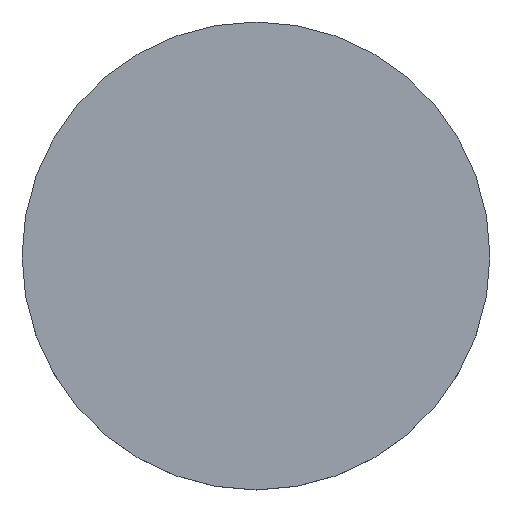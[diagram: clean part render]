
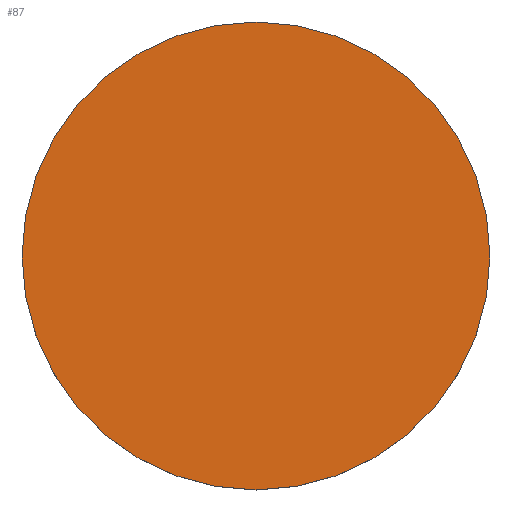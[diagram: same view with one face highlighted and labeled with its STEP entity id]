
A CAD part, top view. The second image highlights one B-rep face of the part: STEP entity #87.
In plain terms, the highlighted planar face has unit normal (0, 0, 1).
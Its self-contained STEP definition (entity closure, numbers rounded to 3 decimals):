
#43=PLANE('',#83);
#47=ORIENTED_EDGE('',*,*,#53,.F.);
#49=CIRCLE('',#81,17.5);
#51=VERTEX_POINT('',#75);
#53=EDGE_CURVE('',#51,#51,#49,.T.);
#57=EDGE_LOOP('',(#47));
#61=FACE_BOUND('',#57,.T.);
#66=DIRECTION('',(0.,0.,-1.));
#67=DIRECTION('',(0.,-17.5,0.));
#70=DIRECTION('',(0.,0.,1.));
#71=DIRECTION('',(0.,-1.,0.));
#75=CARTESIAN_POINT('',(0.,-17.5,3.));
#76=CARTESIAN_POINT('',(0.,0.,3.));
#78=CARTESIAN_POINT('',(0.,0.,3.));
#81=AXIS2_PLACEMENT_3D('',#76,#66,#67);
#83=AXIS2_PLACEMENT_3D('',#78,#70,#71);
#87=ADVANCED_FACE('',(#61),#43,.T.);
